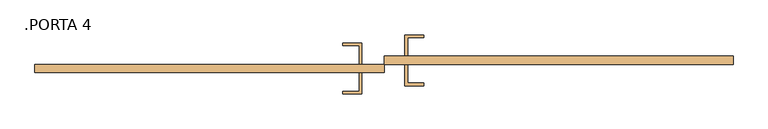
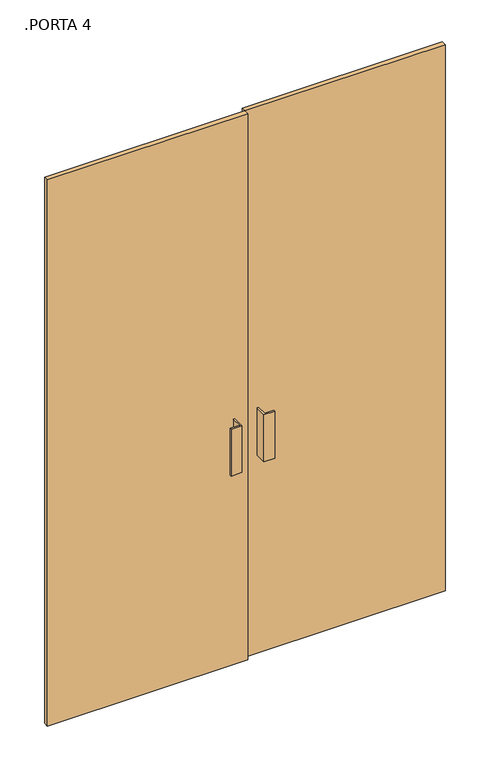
"""IFC4 building model written with IfcOpenShell, lengths in millimetres: door geometry, Parede cortina com vidro duplo CORRER : .PORTA 4."""

from ifc_helpers import new_model, si_unit, frame, origin, origin_with_axes, place, context, project, spatial, polyline, outline, extrude, source, transform, mapped, element, save


def porta_4_2bb348b0(model_context):
    return source(origin(), model_context, "Body", "SweptSolid", [
        extrude(outline(polyline([(-821.825, -69.05), (-821.825, -50.0), (1.5875, -50.0), (1.5875, -69.05), (-821.825, -69.05)])), origin_with_axes(), (0.0, 0.0, 1.0), 2375.0),
        extrude(outline(polyline([(825.0, -30.95), (825.0, -50.0), (1.5875, -50.0), (1.5875, -30.95), (825.0, -30.95)])), origin_with_axes(), (0.0, 0.0, 1.0), 2375.0),
        extrude(outline(polyline([(-50.8, -119.85), (-95.25, -119.85), (-95.25, -113.5), (-57.15, -113.5), (-57.15, -69.05), (-50.8, -69.05), (-50.8, -119.85)])), frame((0.0, 0.0, 863.6), z_axis=(0.0, 0.0, 1.0), x_axis=(1.0, 0.0, 0.0)), (0.0, 0.0, 1.0), 203.2),
        extrude(outline(polyline([(50.8, -100.8), (50.8, -50.0), (57.15, -50.0), (57.15, -94.45), (95.25, -94.45), (95.25, -100.8), (50.8, -100.8)])), frame((0.0, 0.0, 863.6), z_axis=(0.0, 0.0, 1.0), x_axis=(1.0, 0.0, 0.0)), (0.0, 0.0, 1.0), 203.2),
        extrude(outline(polyline([(-50.8, 0.8), (-50.8, -50.0), (-57.15, -50.0), (-57.15, -30.95), (-57.15, -5.55), (-95.25, -5.55), (-95.25, 0.8), (-50.8, 0.8)])), frame((0.0, 0.0, 863.6), z_axis=(0.0, 0.0, 1.0), x_axis=(1.0, 0.0, 0.0)), (0.0, 0.0, 1.0), 203.2),
        extrude(outline(polyline([(50.8, 19.85), (95.25, 19.85), (95.25, 13.5), (57.15, 13.5), (57.15, -30.95), (50.8, -30.95), (50.8, 19.85)])), frame((0.0, 0.0, 863.6), z_axis=(0.0, 0.0, 1.0), x_axis=(1.0, 0.0, 0.0)), (0.0, 0.0, 1.0), 203.2),
    ])


if __name__ == "__main__":
    model = new_model("IFC4")
    model_context = context("Model", 3, world=origin())
    ifc_project = project(units=[si_unit("LENGTHUNIT", "METRE", prefix="MILLI")], contexts=[model_context])
    site = spatial("IfcSite", under=ifc_project)
    building = spatial("IfcBuilding", under=site)
    placement = place(None, origin())
    porta_4_shape = porta_4_2bb348b0(model_context)
    element("IfcDoor", 1, ObjectType="Parede cortina com vidro duplo CORRER : .PORTA 4", at=placement, inside=building, context=model_context, shape_type="MappedRepresentation", body=[
        mapped(porta_4_shape, transform((0.0, 0.0, 0.0), x_axis=(1.0, 0.0, 0.0), y_axis=(0.0, 1.0, 0.0), z_axis=(0.0, 0.0, 1.0))),
    ])
    save(model, "model.ifc")
